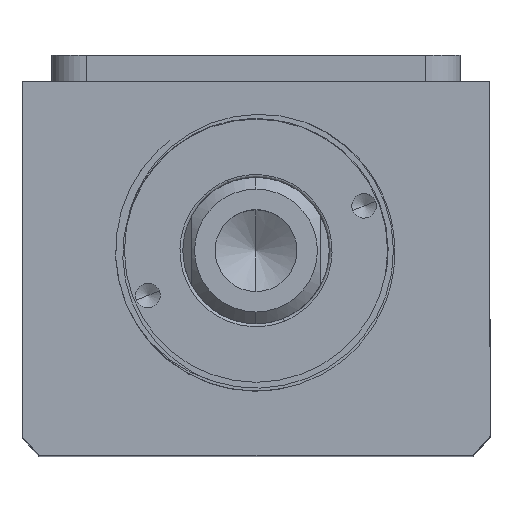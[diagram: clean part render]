
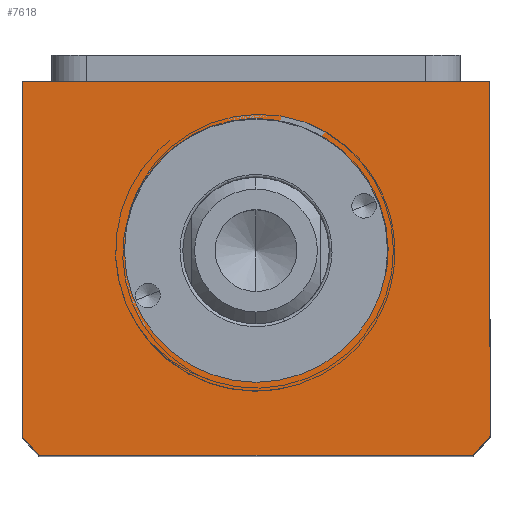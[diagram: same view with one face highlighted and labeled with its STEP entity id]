
A CAD part, top view. The second image highlights one B-rep face of the part: STEP entity #7618.
In plain terms, the highlighted planar face has unit normal (0, 0, 1).
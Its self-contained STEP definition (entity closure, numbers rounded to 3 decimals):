
#28 = CARTESIAN_POINT ( 'NONE',  ( 40., -11.507, 145. ) ) ;
#40 = DIRECTION ( 'NONE',  ( 1., 0., 0. ) ) ;
#351 = VERTEX_POINT ( 'NONE', #1380 ) ;
#643 = DIRECTION ( 'NONE',  ( 0., -1., 0. ) ) ;
#684 = CIRCLE ( 'NONE', #936, 22.5 ) ;
#742 = AXIS2_PLACEMENT_3D ( 'NONE', #1539, #7240, #2349 ) ;
#867 = CARTESIAN_POINT ( 'NONE',  ( -40., -75.507, 145. ) ) ;
#936 = AXIS2_PLACEMENT_3D ( 'NONE', #8550, #3688, #9380 ) ;
#1380 = CARTESIAN_POINT ( 'NONE',  ( -40., -72.145, 145. ) ) ;
#1539 = CARTESIAN_POINT ( 'NONE',  ( 0., -40.507, 145. ) ) ;
#1560 = CIRCLE ( 'NONE', #742, 51. ) ;
#1759 = AXIS2_PLACEMENT_3D ( 'NONE', #7482, #2598, #8300 ) ;
#2187 = ORIENTED_EDGE ( 'NONE', *, *, #8755, .F. ) ;
#2227 = VERTEX_POINT ( 'NONE', #3418 ) ;
#2275 = LINE ( 'NONE', #7388, #6085 ) ;
#2349 = DIRECTION ( 'NONE',  ( 1., 0., 0. ) ) ;
#2598 = DIRECTION ( 'NONE',  ( 0., 0., 1. ) ) ;
#2845 = VERTEX_POINT ( 'NONE', #4799 ) ;
#2915 = EDGE_CURVE ( 'NONE', #3153, #4083, #3173, .T. ) ;
#3114 = DIRECTION ( 'NONE',  ( 0., 0., 1. ) ) ;
#3153 = VERTEX_POINT ( 'NONE', #8910 ) ;
#3173 = LINE ( 'NONE', #867, #9403 ) ;
#3270 = DIRECTION ( 'NONE',  ( 0., 0., 1. ) ) ;
#3283 = FACE_BOUND ( 'NONE', #9328, .T. ) ;
#3342 = VERTEX_POINT ( 'NONE', #5866 ) ;
#3418 = CARTESIAN_POINT ( 'NONE',  ( 40., -72.145, 145. ) ) ;
#3459 = FACE_OUTER_BOUND ( 'NONE', #4245, .T. ) ;
#3688 = DIRECTION ( 'NONE',  ( 0., 0., 1. ) ) ;
#4083 = VERTEX_POINT ( 'NONE', #10185 ) ;
#4245 = EDGE_LOOP ( 'NONE', ( #7938, #5085, #5692, #4907, #9596, #6046 ) ) ;
#4315 = LINE ( 'NONE', #28, #6230 ) ;
#4701 = AXIS2_PLACEMENT_3D ( 'NONE', #7995, #3114, #8804 ) ;
#4799 = CARTESIAN_POINT ( 'NONE',  ( -22.5, -40.507, 145. ) ) ;
#4827 = CARTESIAN_POINT ( 'NONE',  ( -40., -11.507, 145. ) ) ;
#4858 = EDGE_CURVE ( 'NONE', #2227, #3342, #4315, .T. ) ;
#4907 = ORIENTED_EDGE ( 'NONE', *, *, #6011, .T. ) ;
#5085 = ORIENTED_EDGE ( 'NONE', *, *, #9078, .T. ) ;
#5496 = EDGE_CURVE ( 'NONE', #6111, #351, #2275, .T. ) ;
#5501 = VECTOR ( 'NONE', #8823, 1000. ) ;
#5692 = ORIENTED_EDGE ( 'NONE', *, *, #2915, .T. ) ;
#5866 = CARTESIAN_POINT ( 'NONE',  ( 40., -11.507, 145. ) ) ;
#6011 = EDGE_CURVE ( 'NONE', #4083, #2227, #6346, .T. ) ;
#6046 = ORIENTED_EDGE ( 'NONE', *, *, #8533, .T. ) ;
#6085 = VECTOR ( 'NONE', #643, 1000. ) ;
#6111 = VERTEX_POINT ( 'NONE', #7623 ) ;
#6230 = VECTOR ( 'NONE', #8856, 1000. ) ;
#6346 = CIRCLE ( 'NONE', #1759, 51. ) ;
#6982 = AXIS2_PLACEMENT_3D ( 'NONE', #7324, #3270, #8954 ) ;
#7240 = DIRECTION ( 'NONE',  ( 0., 0., 1. ) ) ;
#7324 = CARTESIAN_POINT ( 'NONE',  ( 0., 0., 145. ) ) ;
#7388 = CARTESIAN_POINT ( 'NONE',  ( -40., -11.507, 145. ) ) ;
#7482 = CARTESIAN_POINT ( 'NONE',  ( 0., -40.507, 145. ) ) ;
#7618 = ADVANCED_FACE ( 'NONE', ( #3283, #3459 ), #9755, .T. ) ;
#7623 = CARTESIAN_POINT ( 'NONE',  ( -40., -11.507, 145. ) ) ;
#7938 = ORIENTED_EDGE ( 'NONE', *, *, #5496, .T. ) ;
#7995 = CARTESIAN_POINT ( 'NONE',  ( 0., -40.507, 145. ) ) ;
#8150 = CARTESIAN_POINT ( 'NONE',  ( 22.5, -40.507, 145. ) ) ;
#8300 = DIRECTION ( 'NONE',  ( 1., 0., 0. ) ) ;
#8533 = EDGE_CURVE ( 'NONE', #3342, #6111, #9848, .T. ) ;
#8550 = CARTESIAN_POINT ( 'NONE',  ( 0., -40.507, 145. ) ) ;
#8680 = VERTEX_POINT ( 'NONE', #8150 ) ;
#8755 = EDGE_CURVE ( 'NONE', #8680, #2845, #684, .T. ) ;
#8804 = DIRECTION ( 'NONE',  ( 1., 0., 0. ) ) ;
#8823 = DIRECTION ( 'NONE',  ( -1., 0., 0. ) ) ;
#8856 = DIRECTION ( 'NONE',  ( 0., 1., 0. ) ) ;
#8910 = CARTESIAN_POINT ( 'NONE',  ( -37.094, -75.507, 145. ) ) ;
#8954 = DIRECTION ( 'NONE',  ( 1., 0., 0. ) ) ;
#9053 = CIRCLE ( 'NONE', #4701, 22.5 ) ;
#9078 = EDGE_CURVE ( 'NONE', #351, #3153, #1560, .T. ) ;
#9328 = EDGE_LOOP ( 'NONE', ( #2187, #10370 ) ) ;
#9380 = DIRECTION ( 'NONE',  ( 1., 0., 0. ) ) ;
#9403 = VECTOR ( 'NONE', #40, 1000. ) ;
#9596 = ORIENTED_EDGE ( 'NONE', *, *, #4858, .T. ) ;
#9755 = PLANE ( 'NONE',  #6982 ) ;
#9848 = LINE ( 'NONE', #4827, #5501 ) ;
#9879 = EDGE_CURVE ( 'NONE', #2845, #8680, #9053, .T. ) ;
#10185 = CARTESIAN_POINT ( 'NONE',  ( 37.094, -75.507, 145. ) ) ;
#10370 = ORIENTED_EDGE ( 'NONE', *, *, #9879, .F. ) ;
